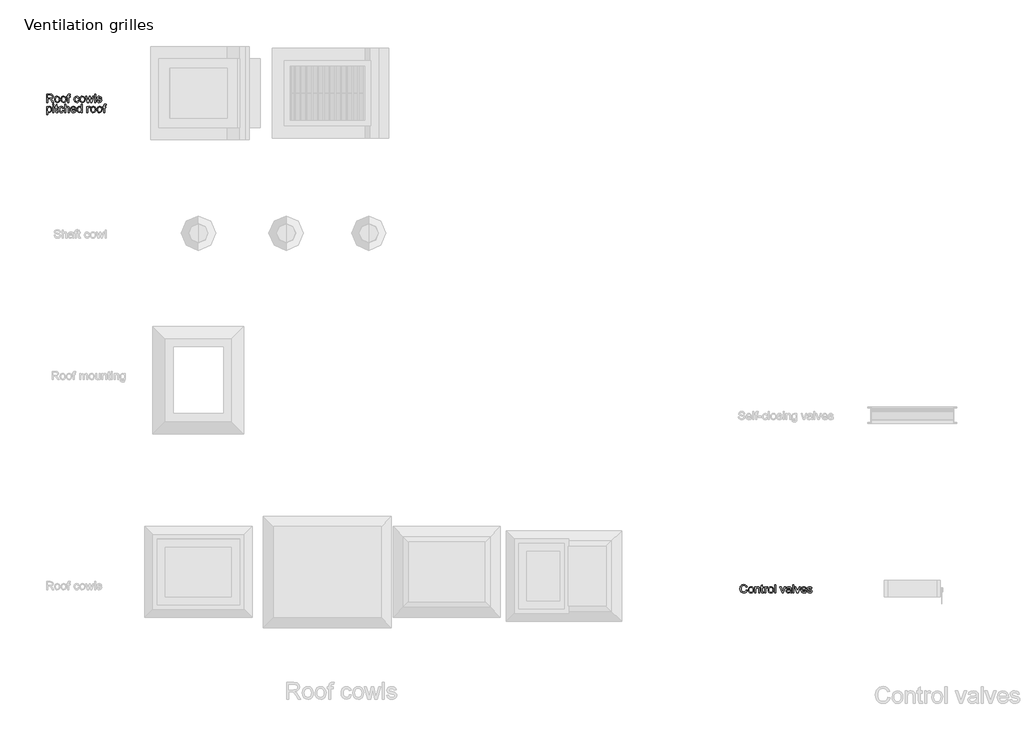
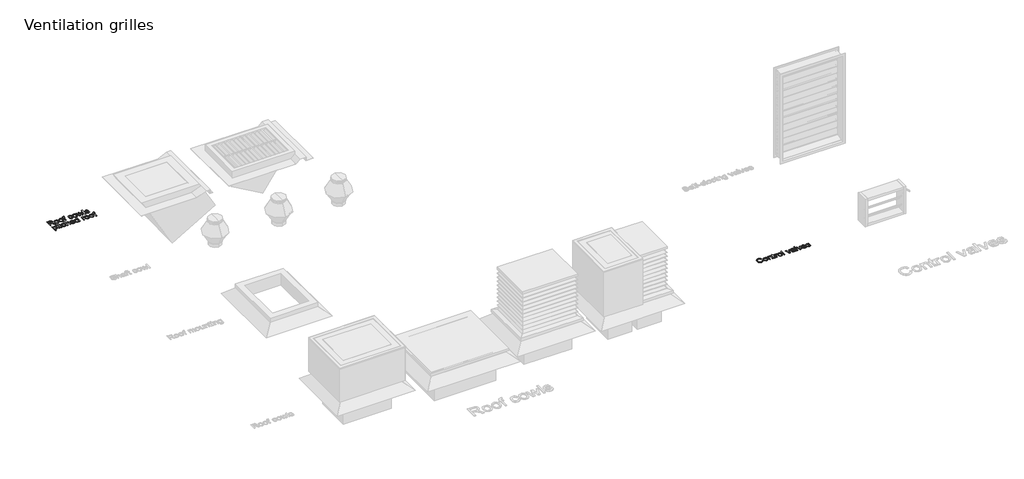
# One storey, part 8 of 10: 2 proxies.
"""IFC4 building model written with IfcOpenShell, lengths in millimetres."""

from ifc_helpers import new_model, si_unit, origin, origin_with_axes, place, context, project, spatial, polyline, outline, extrude, element, save

model = new_model("IFC4")

# Units and contexts
model_context = context("Model", 3, world=origin())
ifc_project = project(units=[si_unit("LENGTHUNIT", "METRE", prefix="MILLI")], contexts=[model_context])

# Site, building, storey
site = spatial("IfcSite", under=ifc_project)
building = spatial("IfcBuilding", under=site)
storey = spatial("IfcBuildingStorey", under=building, Name="Ventilation grilles", Elevation=0.0)

# Proxies
placement = place(None, origin())
element("IfcBuildingElementProxy", 1, Name="100mm", ObjectType="100mm", at=placement, inside=storey, context=model_context, shape_type="SweptSolid", body=[
    extrude(outline(polyline([(10502.1101232, -15048.3776862), (10514.667162, -15051.6150478), (10508.8730206, -15066.2475541), (10499.7802039, -15076.9375918), (10487.8363018, -15083.4766942), (10473.488904, -15085.6563951), (10458.9238427, -15084.0070574), (10447.3570196, -15079.0590446), (10438.4910635, -15070.9840348), (10432.0286031, -15059.9537063), (10426.7678906, -15033.0983207), (10428.254747, -15018.4504859), (10432.7153162, -15005.8014766), (10439.9166062, -14995.5528974), (10449.6256252, -14988.1063527), (10461.1403317, -14983.5722071), (10473.7586841, -14982.0608252), (10487.5266678, -14984.0167312), (10498.9095499, -14989.884449), (10507.5517111, -14999.3022281), (10513.0975321, -15011.9083178), (10500.5404934, -15014.9004247), (10490.2397975, -14999.4616436), (10473.2681748, -14994.617864), (10453.6232762, -14999.9889411), (10442.5255027, -15014.4099153), (10439.3249294, -15033.0737952), (10443.1141139, -15054.7052565), (10454.9108632, -15068.5253568), (10472.2381052, -15073.0993563), (10482.7196764, -15071.5419892), (10491.4538081, -15066.8698878), (10498.0480928, -15059.1321032), (10502.1101232, -15048.3776862)])), origin_with_axes(), (0.0, 0.0, 1.0), 2.0),
    extrude(outline(polyline([(10527.2242007, -15047.2004638), (10529.9403961, -15029.4133694), (10538.0889823, -15016.9115129), (10548.1566863, -15010.7862777), (10560.210953, -15008.7445326), (10573.4025882, -15011.2308018), (10583.9393417, -15018.6896092), (10590.8463261, -15030.5323438), (10593.1486543, -15046.1703942), (10589.0774269, -15068.5130941), (10577.2193639, -15081.155972), (10560.210953, -15085.6563951), (10546.8599022, -15083.179323), (10536.3354115, -15075.7481067), (10529.5020034, -15063.6570517), (10527.2242007, -15047.2004638)]), holes=[polyline([(10539.7812395, -15047.1759384), (10541.2343734, -15058.5404263), (10545.593775, -15066.6368959), (10552.1543373, -15071.4837412), (10560.210953, -15073.0993563), (10568.2307805, -15071.4745441), (10574.77908, -15066.6001077), (10579.1384816, -15058.3963392), (10580.5916155, -15046.7835309), (10579.1292846, -15035.7501367), (10574.7422918, -15027.7640318), (10568.1847952, -15022.9171865), (10560.210953, -15021.3015714), (10552.1543373, -15022.9110551), (10545.593775, -15027.7395063), (10541.2343734, -15035.8175818), (10539.7812395, -15047.1759384)])]), origin_with_axes(), (0.0, 0.0, 1.0), 2.0),
    extrude(outline(polyline([(10607.2753229, -15084.0867652), (10607.2753229, -15010.3141624), (10619.8323617, -15010.3141624), (10619.8323617, -15020.6148583), (10629.4340817, -15011.712114), (10642.5429435, -15008.7445326), (10654.4010065, -15011.1357656), (10662.4944104, -15017.414285), (10666.2590695, -15026.648123), (10666.9212571, -15038.7882289), (10666.9212571, -15084.0867652), (10654.3642183, -15084.0867652), (10654.3642183, -15040.4804861), (10652.9172158, -15029.3704498), (10647.803656, -15023.4966006), (10639.1829546, -15021.3015714), (10625.5590581, -15026.2311901), (10621.2640358, -15033.3742322), (10619.8323617, -15044.9441209), (10619.8323617, -15084.0867652), (10607.2753229, -15084.0867652)])), origin_with_axes(), (0.0, 0.0, 1.0), 2.0),
    extrude(outline(polyline([(10710.8708927, -15073.6143911), (10712.4405226, -15084.4546472), (10703.047269, -15085.6563951), (10692.5258439, -15083.5717304), (10687.2773941, -15078.1025514), (10685.7568152, -15063.8532555), (10685.7568152, -15022.8712012), (10676.3390361, -15022.8712012), (10676.3390361, -15010.3141624), (10685.7568152, -15010.3141624), (10685.7568152, -14992.3860466), (10698.313854, -14985.0038812), (10698.313854, -15010.3141624), (10710.8708927, -15010.3141624), (10710.8708927, -15022.8712012), (10698.313854, -15022.8712012), (10698.313854, -15063.4853735), (10698.9760416, -15069.9600966), (10701.1220199, -15072.2532277), (10705.4017137, -15073.0993563), (10710.8708927, -15073.6143911)])), origin_with_axes(), (0.0, 0.0, 1.0), 2.0),
    extrude(outline(polyline([(10723.4279315, -15084.0867652), (10723.4279315, -15010.3141624), (10734.4153404, -15010.3141624), (10734.4153404, -15021.227995), (10742.2144387, -15011.1725538), (10750.062588, -15008.7445326), (10762.6686777, -15012.6195563), (10758.4748229, -15023.8767453), (10749.645655, -15021.3015714), (10742.5455325, -15023.7786435), (10738.020584, -15030.645774), (10735.9849703, -15045.3120029), (10735.9849703, -15084.0867652), (10723.4279315, -15084.0867652)])), origin_with_axes(), (0.0, 0.0, 1.0), 2.0),
    extrude(outline(polyline([(10767.3775672, -15047.2004638), (10770.0937626, -15029.4133694), (10778.2423488, -15016.9115129), (10788.3100527, -15010.7862777), (10800.3643194, -15008.7445326), (10813.5559546, -15011.2308018), (10824.0927081, -15018.6896092), (10830.9996926, -15030.5323438), (10833.3020207, -15046.1703942), (10829.2307933, -15068.5130941), (10817.3727303, -15081.155972), (10800.3643194, -15085.6563951), (10787.0132687, -15083.179323), (10776.4887779, -15075.7481067), (10769.6553699, -15063.6570517), (10767.3775672, -15047.2004638)]), holes=[polyline([(10779.934606, -15047.1759384), (10781.3877399, -15058.5404263), (10785.7471415, -15066.6368959), (10792.3077037, -15071.4837412), (10800.3643194, -15073.0993563), (10808.3841469, -15071.4745441), (10814.9324464, -15066.6001077), (10819.2918481, -15058.3963392), (10820.744982, -15046.7835309), (10819.282651, -15035.7501367), (10814.8956582, -15027.7640318), (10808.3381617, -15022.9171865), (10800.3643194, -15021.3015714), (10792.3077037, -15022.9110551), (10785.7471415, -15027.7395063), (10781.3877399, -15035.8175818), (10779.934606, -15047.1759384)])]), origin_with_axes(), (0.0, 0.0, 1.0), 2.0),
    extrude(outline(polyline([(10847.4286894, -15084.0867652), (10847.4286894, -14983.6304551), (10859.9857281, -14983.6304551), (10859.9857281, -15084.0867652), (10847.4286894, -15084.0867652)])), origin_with_axes(), (0.0, 0.0, 1.0), 2.0),
    extrude(outline(polyline([(10936.1618266, -15084.0867652), (10910.2138832, -15010.3141624), (10923.506686, -15010.3141624), (10939.2275099, -15054.5090528), (10943.9609249, -15069.3714854), (10948.596238, -15055.3429187), (10964.4151638, -15010.3141624), (10977.7079666, -15010.3141624), (10952.0788542, -15084.0867652), (10936.1618266, -15084.0867652)])), origin_with_axes(), (0.0, 0.0, 1.0), 2.0),
    extrude(outline(polyline([(11035.7842709, -15074.6689861), (11023.6073768, -15083.179323), (11010.1551586, -15085.6563951), (10999.6613246, -15084.166473), (10991.9204743, -15079.6967067), (10987.1472054, -15072.9092839), (10985.5561158, -15064.4663921), (10987.9596115, -15054.5335783), (10994.2749191, -15047.3230912), (11003.0672988, -15043.2028128), (11013.9320804, -15041.3143519), (11035.7106945, -15036.9978698), (11035.7842709, -15034.2019667), (11032.3261801, -15024.9313404), (11018.4447662, -15021.3015714), (11005.7405746, -15023.7173298), (10999.6827844, -15032.2889803), (10987.1257457, -15030.7193504), (10992.5581364, -15018.4566173), (11003.4964944, -15011.2706556), (11020.063447, -15008.7445326), (11035.2814988, -15010.97635), (11043.8776748, -15016.5804191), (11047.728173, -15025.1030187), (11048.3413097, -15036.0904276), (11048.3413097, -15051.7131496), (11048.9789718, -15073.528552), (11051.4805693, -15084.0867652), (11038.9235306, -15084.0867652), (11035.7842709, -15074.6689861)]), holes=[polyline([(11035.7842709, -15049.5549086), (11015.5262357, -15053.4054068), (11004.7227678, -15055.4410205), (10999.8299372, -15058.7519585), (10998.1131546, -15063.5834754), (11001.8532882, -15070.3770295), (11012.8284344, -15073.0993563), (11025.5326259, -15070.0949867), (11033.7241317, -15062.8231859), (11035.7106945, -15053.1111012), (11035.7842709, -15049.5549086)])]), origin_with_axes(), (0.0, 0.0, 1.0), 2.0),
    extrude(outline(polyline([(11065.607238, -15084.0867652), (11065.607238, -14983.6304551), (11078.1642767, -14983.6304551), (11078.1642767, -15084.0867652), (11065.607238, -15084.0867652)])), origin_with_axes(), (0.0, 0.0, 1.0), 2.0),
    extrude(outline(polyline([(11115.099629, -15084.0867652), (11089.1516856, -15010.3141624), (11102.4444884, -15010.3141624), (11118.1653123, -15054.5090528), (11122.8987273, -15069.3714854), (11127.5340405, -15055.3429187), (11143.3529663, -15010.3141624), (11156.645769, -15010.3141624), (11131.0166567, -15084.0867652), (11115.099629, -15084.0867652)])), origin_with_axes(), (0.0, 0.0, 1.0), 2.0),
    extrude(outline(polyline([(11219.2838101, -15062.1119474), (11231.5955942, -15063.6815772), (11227.1595505, -15072.9583349), (11220.0808877, -15079.8929105), (11210.5190215, -15084.2155239), (11198.6333674, -15085.6563951), (11183.8996935, -15083.1701259), (11172.5627967, -15075.7113185), (11165.3339155, -15063.7643507), (11162.9242884, -15047.8136005), (11165.3584409, -15031.3263557), (11172.6608986, -15018.9961775), (11183.8445112, -15011.3074438), (11197.9221289, -15008.7445326), (11211.5613539, -15011.3013125), (11222.459858, -15018.9716521), (11229.6059657, -15031.2773048), (11231.9880016, -15047.7400241), (11231.9144252, -15051.1245384), (11175.4813272, -15051.1245384), (11177.6548966, -15060.5239234), (11182.704077, -15067.4339736), (11189.9912062, -15071.6830106), (11198.8786221, -15073.0993563), (11211.1904062, -15070.4751314), (11219.2838101, -15062.1119474)]), holes=[polyline([(11175.4813272, -15038.5674997), (11219.4309629, -15038.5674997), (11214.4032423, -15027.1876833), (11207.0823906, -15022.7730994), (11197.873078, -15021.3015714), (11182.4097714, -15025.9981982), (11177.544532, -15031.488837), (11175.4813272, -15038.5674997)])]), origin_with_axes(), (0.0, 0.0, 1.0), 2.0),
    extrude(outline(polyline([(11239.8361509, -15062.1119474), (11252.3931896, -15060.5423175), (11258.2057252, -15069.8619947), (11271.5230534, -15073.0993563), (11284.3253468, -15070.1317749), (11288.4946761, -15063.1665424), (11284.3008214, -15057.5256852), (11271.3759006, -15053.9449671), (11252.466766, -15047.8013378), (11244.2139466, -15040.6276389), (11241.4057807, -15030.4986213), (11243.6621236, -15021.1421558), (11249.8180157, -15013.9929824), (11257.801055, -15010.2773742), (11268.6045229, -15008.7445326), (11283.8838884, -15011.209342), (11293.5959731, -15017.8802688), (11297.9124552, -15029.1497206), (11285.3554164, -15030.7193504), (11280.6342641, -15023.7909062), (11269.5855415, -15021.3015714), (11257.568063, -15023.6805416), (11253.9628195, -15029.223297), (11255.4588729, -15032.8775915), (11260.143237, -15035.6489692), (11270.9589677, -15038.322245), (11289.3898556, -15044.2328824), (11297.9492434, -15050.9283347), (11301.0517149, -15061.8421672), (11297.4096831, -15073.8596457), (11286.9005208, -15082.578449), (11271.3513751, -15085.6563951), (11258.6901031, -15084.1726043), (11249.4501337, -15079.7212322), (11243.2819789, -15072.3513296), (11239.8361509, -15062.1119474)])), origin_with_axes(), (0.0, 0.0, 1.0), 2.0),
])
element("IfcBuildingElementProxy", 2, Name="100mm", ObjectType="100mm", at=placement, inside=storey, context=model_context, shape_type="SweptSolid", body=[
    extrude(outline(polyline([(2034.4292805, -9143.1445851), (2034.4292805, -9042.688275), (2077.7167286, -9042.688275), (2097.8153483, -9045.398339), (2108.8027572, -9054.9877964), (2112.9107728, -9070.1813228), (2111.2093186, -9080.0773484), (2106.1049559, -9088.2811169), (2097.4444006, -9094.2959876), (2085.0743685, -9097.6253196), (2092.2112792, -9102.9963967), (2102.3893477, -9115.9213175), (2119.1402413, -9143.1445851), (2104.5475888, -9143.1445851), (2091.4755152, -9122.3224642), (2082.0332107, -9108.5391521), (2075.399072, -9102.0276408), (2069.427121, -9099.6364079), (2062.1430575, -9099.1949495), (2046.9863193, -9099.1949495), (2046.9863193, -9143.1445851), (2034.4292805, -9143.1445851)]), holes=[polyline([(2046.9863193, -9086.6379107), (2075.0925037, -9086.6379107), (2089.4276388, -9084.8598144), (2097.5700936, -9079.1699062), (2100.353734, -9070.6473066), (2095.0439706, -9059.5863213), (2078.2562889, -9055.2453138), (2046.9863193, -9055.2453138), (2046.9863193, -9086.6379107)])]), origin_with_axes(), (0.0, 0.0, 1.0), 2.0),
    extrude(outline(polyline([(2130.1767011, -9106.2582838), (2132.8928965, -9088.4711893), (2141.0414827, -9075.9693328), (2151.1091866, -9069.8440976), (2163.1634533, -9067.8023525), (2176.3550886, -9070.2886217), (2186.891842, -9077.7474291), (2193.7988265, -9089.5901637), (2196.1011546, -9105.2282142), (2192.0299272, -9127.570914), (2180.1718643, -9140.2137919), (2163.1634533, -9144.714215), (2149.8124026, -9142.2371429), (2139.2879119, -9134.8059266), (2132.4545038, -9122.7148717), (2130.1767011, -9106.2582838)]), holes=[polyline([(2142.7337399, -9106.2337583), (2144.1868738, -9117.5982463), (2148.5462754, -9125.6947158), (2155.1068376, -9130.5415611), (2163.1634533, -9132.1571762), (2171.1832808, -9130.5323641), (2177.7315804, -9125.6579276), (2182.090982, -9117.4541592), (2183.5441159, -9105.8413508), (2182.0817849, -9094.8079567), (2177.6947922, -9086.8218517), (2171.1372956, -9081.9750064), (2163.1634533, -9080.3593913), (2155.1068376, -9081.968875), (2148.5462754, -9086.7973262), (2144.1868738, -9094.8754017), (2142.7337399, -9106.2337583)])]), origin_with_axes(), (0.0, 0.0, 1.0), 2.0),
    extrude(outline(polyline([(2207.0885636, -9106.2582838), (2209.804759, -9088.4711893), (2217.9533452, -9075.9693328), (2228.0210491, -9069.8440976), (2240.0753158, -9067.8023525), (2253.266951, -9070.2886217), (2263.8037045, -9077.7474291), (2270.7106889, -9089.5901637), (2273.0130171, -9105.2282142), (2268.9417897, -9127.570914), (2257.0837267, -9140.2137919), (2240.0753158, -9144.714215), (2226.7242651, -9142.2371429), (2216.1997743, -9134.8059266), (2209.3663663, -9122.7148717), (2207.0885636, -9106.2582838)]), holes=[polyline([(2219.6456023, -9106.2337583), (2221.0987362, -9117.5982463), (2225.4581379, -9125.6947158), (2232.0187001, -9130.5415611), (2240.0753158, -9132.1571762), (2248.0951433, -9130.5323641), (2254.6434428, -9125.6579276), (2259.0028445, -9117.4541592), (2260.4559783, -9105.8413508), (2258.9936474, -9094.8079567), (2254.6066546, -9086.8218517), (2248.049158, -9081.9750064), (2240.0753158, -9080.3593913), (2232.0187001, -9081.968875), (2225.4581379, -9086.7973262), (2221.0987362, -9094.8754017), (2219.6456023, -9106.2337583)])]), origin_with_axes(), (0.0, 0.0, 1.0), 2.0),
    extrude(outline(polyline([(2290.2789454, -9143.1445851), (2290.2789454, -9081.9290211), (2279.2915365, -9081.9290211), (2279.2915365, -9069.3719824), (2290.2789454, -9069.3719824), (2290.2789454, -9061.9407661), (2291.6033206, -9051.4683919), (2298.0289928, -9043.9881247), (2310.6841334, -9041.1186452), (2322.1375262, -9042.4920713), (2320.2981162, -9054.2642951), (2313.0631036, -9053.6756839), (2305.1536407, -9055.7603486), (2302.8359842, -9063.5349214), (2302.8359842, -9069.3719824), (2316.9626528, -9069.3719824), (2316.9626528, -9081.9290211), (2302.8359842, -9081.9290211), (2302.8359842, -9143.1445851), (2290.2789454, -9143.1445851)])), origin_with_axes(), (0.0, 0.0, 1.0), 2.0),
    extrude(outline(polyline([(2414.2797033, -9116.4608778), (2426.836742, -9118.0305076), (2423.3357317, -9129.1987918), (2416.7567754, -9137.638618), (2407.719141, -9142.9453157), (2396.8420967, -9144.714215), (2383.4849146, -9142.2463399), (2373.0401316, -9134.8427148), (2366.298694, -9122.828302), (2364.0515482, -9106.5280639), (2367.8897837, -9085.6691548), (2379.5884311, -9072.2659874), (2396.6704184, -9067.8023525), (2407.2807483, -9069.3351942), (2415.763494, -9073.9337191), (2421.8488753, -9081.3526727), (2425.2671122, -9091.3468002), (2412.7100734, -9092.9164301), (2406.8852751, -9083.5109137), (2396.7685203, -9080.3593913), (2388.6536566, -9081.910627), (2382.212656, -9086.5643343), (2378.0096042, -9094.5718991), (2376.6085869, -9106.1847074), (2377.9789474, -9117.9538655), (2382.0900287, -9125.9890214), (2388.4145333, -9130.6151375), (2396.4251638, -9132.1571762), (2408.2587013, -9128.306678), (2414.2797033, -9116.4608778)])), origin_with_axes(), (0.0, 0.0, 1.0), 2.0),
    extrude(outline(polyline([(2434.6848912, -9106.2582838), (2437.4010866, -9088.4711893), (2445.5496728, -9075.9693328), (2455.6173768, -9069.8440976), (2467.6716435, -9067.8023525), (2480.8632787, -9070.2886217), (2491.4000322, -9077.7474291), (2498.3070166, -9089.5901637), (2500.6093448, -9105.2282142), (2496.5381174, -9127.570914), (2484.6800544, -9140.2137919), (2467.6716435, -9144.714215), (2454.3205927, -9142.2371429), (2443.796102, -9134.8059266), (2436.9626939, -9122.7148717), (2434.6848912, -9106.2582838)]), holes=[polyline([(2447.24193, -9106.2337583), (2448.6950639, -9117.5982463), (2453.0544655, -9125.6947158), (2459.6150278, -9130.5415611), (2467.6716435, -9132.1571762), (2475.691471, -9130.5323641), (2482.2397705, -9125.6579276), (2486.5991721, -9117.4541592), (2488.052306, -9105.8413508), (2486.5899751, -9094.8079567), (2482.2029823, -9086.8218517), (2475.6454857, -9081.9750064), (2467.6716435, -9080.3593913), (2459.6150278, -9081.968875), (2453.0544655, -9086.7973262), (2448.6950639, -9094.8754017), (2447.24193, -9106.2337583)])]), origin_with_axes(), (0.0, 0.0, 1.0), 2.0),
    extrude(outline(polyline([(2526.9742211, -9143.1445851), (2504.5334194, -9069.3719824), (2517.5809675, -9069.3719824), (2530.3096845, -9112.4141758), (2534.1111318, -9127.7916432), (2537.225866, -9112.9782615), (2547.3548836, -9069.3719824), (2562.3154181, -9069.3719824), (2572.3953848, -9112.8556342), (2575.1667625, -9126.2710643), (2579.139888, -9112.1198702), (2591.8931305, -9069.3719824), (2604.9897296, -9069.3719824), (2582.3772496, -9143.1445851), (2567.1959859, -9143.1445851), (2557.5574776, -9099.8816625), (2554.7615745, -9086.392656), (2542.327163, -9143.1445851), (2526.9742211, -9143.1445851)])), origin_with_axes(), (0.0, 0.0, 1.0), 2.0),
    extrude(outline(polyline([(2613.6226937, -9143.1445851), (2613.6226937, -9042.688275), (2626.1797325, -9042.688275), (2626.1797325, -9143.1445851), (2613.6226937, -9143.1445851)])), origin_with_axes(), (0.0, 0.0, 1.0), 2.0),
    extrude(outline(polyline([(2640.3064011, -9121.1697673), (2652.8634399, -9119.6001375), (2658.6759754, -9128.9198147), (2671.9933036, -9132.1571762), (2684.795597, -9129.1895948), (2688.9649263, -9122.2243624), (2684.7710716, -9116.5835051), (2671.8461508, -9113.002787), (2652.9370163, -9106.8591577), (2644.6841968, -9099.6854588), (2641.8760309, -9089.5564412), (2644.1323738, -9080.1999758), (2650.2882659, -9073.0508023), (2658.2713052, -9069.3351942), (2669.0747731, -9067.8023525), (2684.3541386, -9070.2671619), (2694.0662233, -9076.9380887), (2698.3827054, -9088.2075405), (2685.8256666, -9089.7771704), (2681.1045144, -9082.8487261), (2670.0557918, -9080.3593913), (2658.0383133, -9082.7383615), (2654.4330697, -9088.2811169), (2655.9291231, -9091.9354114), (2660.6134872, -9094.7067891), (2671.4292179, -9097.3800649), (2689.8601058, -9103.2907023), (2698.4194936, -9109.9861546), (2701.5219651, -9120.8999872), (2697.8799333, -9132.9174657), (2687.370771, -9141.636269), (2671.8216253, -9144.714215), (2659.1603533, -9143.2304243), (2649.9203839, -9138.7790521), (2643.7522291, -9131.4091495), (2640.3064011, -9121.1697673)])), origin_with_axes(), (0.0, 0.0, 1.0), 2.0),
    extrude(outline(polyline([(2032.8596507, -9293.3727402), (2032.8596507, -9191.3468002), (2045.4166894, -9191.3468002), (2045.4166894, -9203.6585843), (2054.0987045, -9193.2475239), (2065.8218774, -9189.7771704), (2081.7389051, -9194.6332127), (2092.1377028, -9208.3184229), (2095.6448445, -9227.6690159), (2091.6839817, -9248.0128902), (2080.181538, -9261.8697787), (2064.3012985, -9266.6890328), (2053.3752032, -9263.463934), (2045.4166894, -9255.3092165), (2045.4166894, -9293.3727402), (2032.8596507, -9293.3727402)]), holes=[polyline([(2045.4166894, -9228.8217128), (2046.7747871, -9240.0789019), (2050.8490802, -9247.9515766), (2056.8608852, -9252.5868897), (2064.0315184, -9254.1319941), (2071.3186476, -9252.5317074), (2077.4837367, -9247.7308474), (2081.6867885, -9239.5699984), (2083.0878057, -9227.8897451), (2081.720511, -9216.6938697), (2077.6186267, -9208.7108304), (2071.6160188, -9203.9283645), (2064.5465532, -9202.3342091), (2057.4494963, -9204.029532), (2051.2169622, -9209.1155006), (2046.8667576, -9217.4326994), (2045.4166894, -9228.8217128)])]), origin_with_axes(), (0.0, 0.0, 1.0), 2.0),
    extrude(outline(polyline([(2109.7715131, -9265.119403), (2109.7715131, -9191.3468002), (2122.3285519, -9191.3468002), (2122.3285519, -9265.119403), (2109.7715131, -9265.119403)])), origin_with_axes(), (0.0, 0.0, 1.0), 2.0),
    extrude(outline(polyline([(2109.7715131, -9177.2201316), (2109.7715131, -9164.6630928), (2122.3285519, -9164.6630928), (2122.3285519, -9177.2201316), (2109.7715131, -9177.2201316)])), origin_with_axes(), (0.0, 0.0, 1.0), 2.0),
    extrude(outline(polyline([(2167.8478174, -9254.6470289), (2169.4174473, -9265.487285), (2160.0241937, -9266.6890328), (2149.5027686, -9264.6043682), (2144.2543188, -9259.1351892), (2142.7337399, -9244.8858933), (2142.7337399, -9203.903839), (2133.3159608, -9203.903839), (2133.3159608, -9191.3468002), (2142.7337399, -9191.3468002), (2142.7337399, -9173.4186843), (2155.2907786, -9166.036519), (2155.2907786, -9191.3468002), (2167.8478174, -9191.3468002), (2167.8478174, -9203.903839), (2155.2907786, -9203.903839), (2155.2907786, -9244.5180113), (2155.9529662, -9250.9927344), (2158.0989445, -9253.2858655), (2162.3786384, -9254.1319941), (2167.8478174, -9254.6470289)])), origin_with_axes(), (0.0, 0.0, 1.0), 2.0),
    extrude(outline(polyline([(2227.4937516, -9238.4356956), (2240.0507903, -9240.0053255), (2236.54978, -9251.1736097), (2229.9708237, -9259.6134358), (2220.9331893, -9264.9201336), (2210.056145, -9266.6890328), (2196.6989629, -9264.2211578), (2186.2541799, -9256.8175326), (2179.5127423, -9244.8031198), (2177.2655965, -9228.5028817), (2181.103832, -9207.6439726), (2192.8024794, -9194.2408053), (2209.8844667, -9189.7771704), (2220.4947966, -9191.310012), (2228.9775423, -9195.908537), (2235.0629236, -9203.3274905), (2238.4811605, -9213.3216181), (2225.9241217, -9214.8912479), (2220.0993235, -9205.4857316), (2209.9825686, -9202.3342091), (2201.8677049, -9203.8854449), (2195.4267043, -9208.5391521), (2191.2236525, -9216.5467169), (2189.8226353, -9228.1595252), (2191.1929957, -9239.9286834), (2195.304077, -9247.9638393), (2201.6285816, -9252.5899554), (2209.6392121, -9254.1319941), (2221.4727496, -9250.2814959), (2227.4937516, -9238.4356956)])), origin_with_axes(), (0.0, 0.0, 1.0), 2.0),
    extrude(outline(polyline([(2251.0381993, -9265.119403), (2251.0381993, -9164.6630928), (2263.595238, -9164.6630928), (2263.595238, -9201.5984452), (2273.3870305, -9192.7324891), (2285.4474285, -9189.7771704), (2299.5495717, -9193.0022692), (2308.1089594, -9201.9172762), (2310.6841334, -9218.4229151), (2310.6841334, -9265.119403), (2298.1270946, -9265.119403), (2298.1270946, -9219.7227648), (2294.1294436, -9206.479013), (2282.7986782, -9202.3342091), (2272.510245, -9205.1301123), (2265.6431145, -9212.7084814), (2263.595238, -9225.9277078), (2263.595238, -9265.119403), (2251.0381993, -9265.119403)])), origin_with_axes(), (0.0, 0.0, 1.0), 2.0),
    extrude(outline(polyline([(2379.6006938, -9243.1445851), (2391.9124779, -9244.714215), (2387.4764342, -9253.9909726), (2380.3977715, -9260.9255482), (2370.8359053, -9265.2481617), (2358.9502512, -9266.6890328), (2344.2165773, -9264.2027637), (2332.8796805, -9256.7439562), (2325.6507992, -9244.7969884), (2323.2411722, -9228.8462383), (2325.6753247, -9212.3589935), (2332.9777823, -9200.0288153), (2344.161395, -9192.3400816), (2358.2390127, -9189.7771704), (2371.8782376, -9192.3339502), (2382.7767417, -9200.0042898), (2389.9228495, -9212.3099426), (2392.3048854, -9228.7726619), (2392.231309, -9232.1571762), (2335.7982109, -9232.1571762), (2337.9717804, -9241.5565612), (2343.0209608, -9248.4666113), (2350.30809, -9252.7156484), (2359.1955058, -9254.1319941), (2371.5072899, -9251.5077692), (2379.6006938, -9243.1445851)]), holes=[polyline([(2335.7982109, -9219.6001375), (2379.7478466, -9219.6001375), (2374.720126, -9208.2203211), (2367.3992743, -9203.8057371), (2358.1899617, -9202.3342091), (2342.7266552, -9207.030836), (2337.8614158, -9212.5214747), (2335.7982109, -9219.6001375)])]), origin_with_axes(), (0.0, 0.0, 1.0), 2.0),
    extrude(outline(polyline([(2450.3811897, -9265.119403), (2450.3811897, -9253.2736027), (2442.073188, -9263.3351753), (2430.5891384, -9266.6890328), (2415.0399927, -9261.8329905), (2404.0525838, -9248.2826703), (2400.1530346, -9228.306678), (2403.7460155, -9208.3184229), (2414.5126952, -9194.5596363), (2430.5400874, -9189.7771704), (2442.1161076, -9193.1984729), (2450.3811897, -9202.0889545), (2450.3811897, -9164.6630928), (2462.9382285, -9164.6630928), (2462.9382285, -9265.119403), (2450.3811897, -9265.119403)]), holes=[polyline([(2412.7100734, -9228.2576271), (2414.1264191, -9239.6159837), (2418.3754561, -9247.6940592), (2424.5497423, -9252.5225103), (2431.7418353, -9254.1319941), (2438.9308626, -9252.5960867), (2444.9487989, -9247.9883648), (2449.023092, -9240.222989), (2450.3811897, -9229.2141203), (2448.9985665, -9217.1782477), (2444.850697, -9208.8334577), (2438.6794766, -9203.9590213), (2431.2268005, -9202.3342091), (2423.9611311, -9203.8946419), (2418.0075741, -9208.5759403), (2414.0344486, -9216.6172276), (2412.7100734, -9228.2576271)])]), origin_with_axes(), (0.0, 0.0, 1.0), 2.0),
    extrude(outline(polyline([(2521.0145328, -9265.119403), (2521.0145328, -9191.3468002), (2532.0019417, -9191.3468002), (2532.0019417, -9202.2606327), (2539.80104, -9192.2051915), (2547.6491892, -9189.7771704), (2560.2552789, -9193.6521941), (2556.0614242, -9204.9093831), (2547.2322563, -9202.3342091), (2540.1321338, -9204.8112812), (2535.6071853, -9211.6784118), (2533.5715716, -9226.3446407), (2533.5715716, -9265.119403), (2521.0145328, -9265.119403)])), origin_with_axes(), (0.0, 0.0, 1.0), 2.0),
    extrude(outline(polyline([(2564.9641685, -9228.2331016), (2567.6803639, -9210.4460071), (2575.8289501, -9197.9441507), (2585.896654, -9191.8189155), (2597.9509207, -9189.7771704), (2611.1425559, -9192.2634395), (2621.6793094, -9199.722247), (2628.5862939, -9211.5649815), (2630.888622, -9227.203032), (2626.8173946, -9249.5457319), (2614.9593316, -9262.1886098), (2597.9509207, -9266.6890328), (2584.59987, -9264.2119607), (2574.0753792, -9256.7807444), (2567.2419712, -9244.6896895), (2564.9641685, -9228.2331016)]), holes=[polyline([(2577.5212072, -9228.2085761), (2578.9743411, -9239.5730641), (2583.3337428, -9247.6695337), (2589.894305, -9252.516379), (2597.9509207, -9254.1319941), (2605.9707482, -9252.5071819), (2612.5190477, -9247.6327455), (2616.8784494, -9239.428977), (2618.3315832, -9227.8161687), (2616.8692523, -9216.7827745), (2612.4822595, -9208.7966695), (2605.924763, -9203.9498242), (2597.9509207, -9202.3342091), (2589.894305, -9203.9436929), (2583.3337428, -9208.7721441), (2578.9743411, -9216.8502195), (2577.5212072, -9228.2085761)])]), origin_with_axes(), (0.0, 0.0, 1.0), 2.0),
    extrude(outline(polyline([(2641.8760309, -9228.2331016), (2644.5922263, -9210.4460071), (2652.7408125, -9197.9441507), (2662.8085165, -9191.8189155), (2674.8627832, -9189.7771704), (2688.0544184, -9192.2634395), (2698.5911719, -9199.722247), (2705.4981563, -9211.5649815), (2707.8004845, -9227.203032), (2703.7292571, -9249.5457319), (2691.8711941, -9262.1886098), (2674.8627832, -9266.6890328), (2661.5117324, -9264.2119607), (2650.9872417, -9256.7807444), (2644.1538336, -9244.6896895), (2641.8760309, -9228.2331016)]), holes=[polyline([(2654.4330697, -9228.2085761), (2655.8862036, -9239.5730641), (2660.2456052, -9247.6695337), (2666.8061675, -9252.516379), (2674.8627832, -9254.1319941), (2682.8826107, -9252.5071819), (2689.4309102, -9247.6327455), (2693.7903118, -9239.428977), (2695.2434457, -9227.8161687), (2693.7811148, -9216.7827745), (2689.394122, -9208.7966695), (2682.8366254, -9203.9498242), (2674.8627832, -9202.3342091), (2666.8061675, -9203.9436929), (2660.2456052, -9208.7721441), (2655.8862036, -9216.8502195), (2654.4330697, -9228.2085761)])]), origin_with_axes(), (0.0, 0.0, 1.0), 2.0),
    extrude(outline(polyline([(2725.0664128, -9265.119403), (2725.0664128, -9203.903839), (2714.0790039, -9203.903839), (2714.0790039, -9191.3468002), (2725.0664128, -9191.3468002), (2725.0664128, -9183.9155839), (2726.390788, -9173.4432098), (2732.8164601, -9165.9629426), (2745.4716008, -9163.093463), (2756.9249936, -9164.4668891), (2755.0855836, -9176.239113), (2747.850571, -9175.6505018), (2739.9411081, -9177.7351664), (2737.6234515, -9185.5097392), (2737.6234515, -9191.3468002), (2751.7501202, -9191.3468002), (2751.7501202, -9203.903839), (2737.6234515, -9203.903839), (2737.6234515, -9265.119403), (2725.0664128, -9265.119403)])), origin_with_axes(), (0.0, 0.0, 1.0), 2.0),
])

save(model, "model.ifc")
